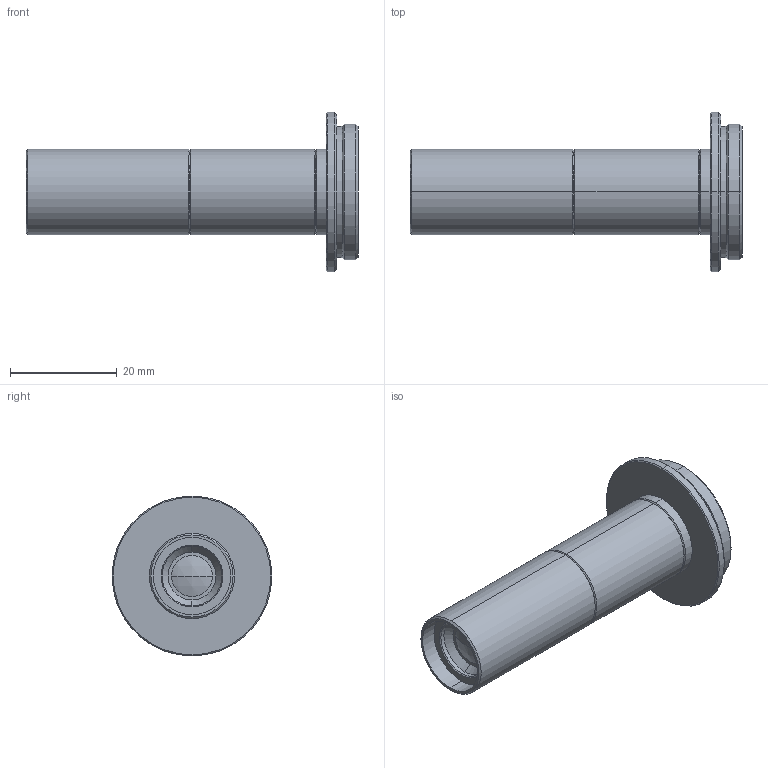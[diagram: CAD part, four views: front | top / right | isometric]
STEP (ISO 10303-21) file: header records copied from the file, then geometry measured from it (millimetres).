
FILE_DESCRIPTION (( 'STEP AP203' ), '1' );
FILE_NAME ('MC10-60(VS-MC1-60).STEP', '2020-04-26T11:05:28', ( '' ), ( '' ), 'SwSTEP 2.0', 'SolidWorks 2018', '' );
FILE_SCHEMA (( 'CONFIG_CONTROL_DESIGN' ));
Length unit declared in the file: millimetre
Products named in the file (1): MC10-60(VS-MC1-60)
Bounding box: 62.33 x 30 x 30 mm (x, y, z)
Volume: 7743.1 mm3; surface area: 6903.4 mm2
Topology: 1 solids, 1 shells, 85 faces, 170 edges, 100 vertices
Faces by surface type: cone 40, cylinder 28, plane 13, sphere 4
Entity records: 2283 total; most frequent: DIRECTION 444, CARTESIAN_POINT 356, ORIENTED_EDGE 340, AXIS2_PLACEMENT_3D 188, EDGE_CURVE 170, CIRCLE 102, VERTEX_POINT 100, EDGE_LOOP 98
